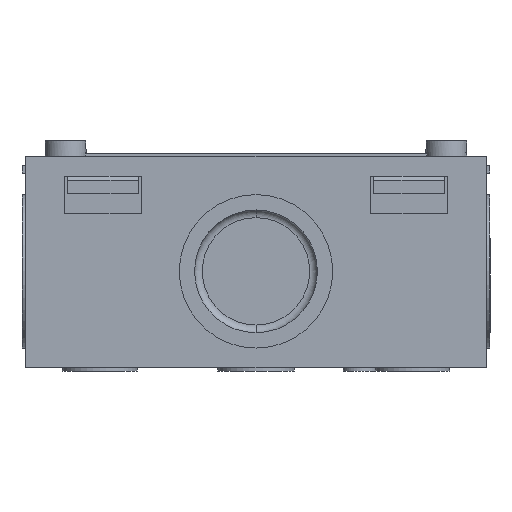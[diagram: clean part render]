
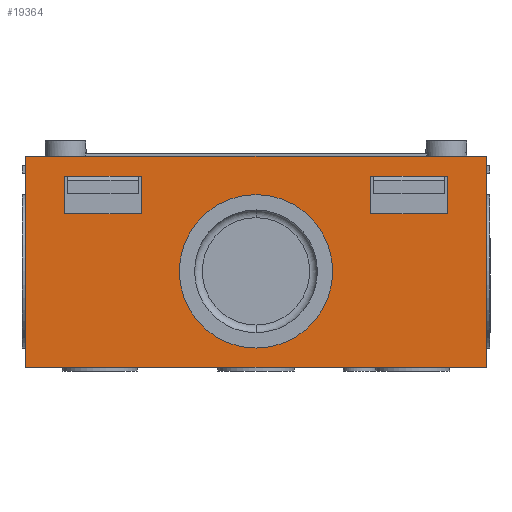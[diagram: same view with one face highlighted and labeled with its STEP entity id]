
A CAD part, front view. The second image highlights one B-rep face of the part: STEP entity #19364.
In plain terms, the highlighted planar face has unit normal (0, -1, 0).
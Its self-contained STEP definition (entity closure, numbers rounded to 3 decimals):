
#1417 = CARTESIAN_POINT ( 'NONE',  ( 0., -85.5, -1.25 ) ) ;
#1418 = DIRECTION ( 'NONE',  ( 0., -1., 0. ) ) ;
#1419 = DIRECTION ( 'NONE',  ( 0., 0., 1. ) ) ;
#3028 = AXIS2_PLACEMENT_3D ( 'NONE', #1417, #1418, #1419 ) ;
#3335 = VECTOR ( 'NONE', #13636, 1000. ) ;
#5993 = VERTEX_POINT ( 'NONE', #18619 ) ;
#5994 = VERTEX_POINT ( 'NONE', #18620 ) ;
#5995 = VERTEX_POINT ( 'NONE', #18621 ) ;
#5996 = VERTEX_POINT ( 'NONE', #18622 ) ;
#5997 = VERTEX_POINT ( 'NONE', #18623 ) ;
#5998 = VERTEX_POINT ( 'NONE', #18624 ) ;
#5999 = VERTEX_POINT ( 'NONE', #18625 ) ;
#6000 = VERTEX_POINT ( 'NONE', #18626 ) ;
#6001 = VERTEX_POINT ( 'NONE', #18627 ) ;
#6011 = VERTEX_POINT ( 'NONE', #18637 ) ;
#6040 = VERTEX_POINT ( 'NONE', #18666 ) ;
#6041 = VERTEX_POINT ( 'NONE', #18667 ) ;
#6089 = VERTEX_POINT ( 'NONE', #18715 ) ;
#6090 = VERTEX_POINT ( 'NONE', #18716 ) ;
#13634 = LINE ( 'NONE', #13635, #3335 ) ;
#13635 = CARTESIAN_POINT ( 'NONE',  ( -30., -85.5, -13.75 ) ) ;
#13636 = DIRECTION ( 'NONE',  ( 1., 0., 0. ) ) ;
#13736 = LINE ( 'NONE', #13737, #19881 ) ;
#13737 = CARTESIAN_POINT ( 'NONE',  ( -30., -85.5, -13.75 ) ) ;
#13738 = DIRECTION ( 'NONE',  ( 0., 0., -1. ) ) ;
#13745 = LINE ( 'NONE', #13746, #19884 ) ;
#13746 = CARTESIAN_POINT ( 'NONE',  ( 30., -85.5, -13.75 ) ) ;
#13747 = DIRECTION ( 'NONE',  ( 0., 0., 1. ) ) ;
#13748 = LINE ( 'NONE', #13749, #19885 ) ;
#13749 = CARTESIAN_POINT ( 'NONE',  ( -30., -85.5, 13.75 ) ) ;
#13750 = DIRECTION ( 'NONE',  ( -1., 0., 0. ) ) ;
#13769 = LINE ( 'NONE', #13770, #19892 ) ;
#13770 = CARTESIAN_POINT ( 'NONE',  ( -24.95, -85.5, 6.25 ) ) ;
#13771 = DIRECTION ( 'NONE',  ( 1., 0., 0. ) ) ;
#13772 = LINE ( 'NONE', #13773, #19893 ) ;
#13773 = CARTESIAN_POINT ( 'NONE',  ( 14.95, -85.5, 11.15 ) ) ;
#13774 = DIRECTION ( 'NONE',  ( 0., 0., -1. ) ) ;
#13775 = LINE ( 'NONE', #13776, #19894 ) ;
#13776 = CARTESIAN_POINT ( 'NONE',  ( -24.95, -85.5, 11.15 ) ) ;
#13777 = DIRECTION ( 'NONE',  ( 0., 0., -1. ) ) ;
#13778 = LINE ( 'NONE', #13779, #19895 ) ;
#13779 = CARTESIAN_POINT ( 'NONE',  ( 24.95, -85.5, 6.25 ) ) ;
#13780 = DIRECTION ( 'NONE',  ( -1., 0., 0. ) ) ;
#13781 = LINE ( 'NONE', #13782, #19896 ) ;
#13782 = CARTESIAN_POINT ( 'NONE',  ( 24.95, -85.5, 11.15 ) ) ;
#13783 = DIRECTION ( 'NONE',  ( -1., 0., 0. ) ) ;
#13784 = LINE ( 'NONE', #13785, #19897 ) ;
#13785 = CARTESIAN_POINT ( 'NONE',  ( 24.95, -85.5, 11.15 ) ) ;
#13786 = DIRECTION ( 'NONE',  ( 0., 0., -1. ) ) ;
#13801 = CARTESIAN_POINT ( 'NONE',  ( 0., -85.5, -1.25 ) ) ;
#13805 = DIRECTION ( 'NONE',  ( 0., -1., 0. ) ) ;
#13806 = DIRECTION ( 'NONE',  ( 0., 0., 1. ) ) ;
#13808 = LINE ( 'NONE', #13809, #19905 ) ;
#13809 = CARTESIAN_POINT ( 'NONE',  ( -14.95, -85.5, 11.15 ) ) ;
#13810 = DIRECTION ( 'NONE',  ( 0., 0., -1. ) ) ;
#13811 = LINE ( 'NONE', #13812, #19906 ) ;
#13812 = CARTESIAN_POINT ( 'NONE',  ( -24.95, -85.5, 11.15 ) ) ;
#13813 = DIRECTION ( 'NONE',  ( 1., 0., 0. ) ) ;
#14176 = PLANE ( 'NONE',  #19770 ) ;
#14177 = CARTESIAN_POINT ( 'NONE',  ( 0., -85.5, 0. ) ) ;
#14178 = DIRECTION ( 'NONE',  ( 0., 1., 0. ) ) ;
#14179 = DIRECTION ( 'NONE',  ( 0., 0., 1. ) ) ;
#15820 = EDGE_LOOP ( 'NONE', ( #21523, #21522 ) ) ;
#15821 = EDGE_LOOP ( 'NONE', ( #21511, #21509, #21510, #21508 ) ) ;
#15822 = EDGE_LOOP ( 'NONE', ( #21515, #21513, #21514, #21512 ) ) ;
#15827 = EDGE_LOOP ( 'NONE', ( #21502, #21517, #21500, #21516 ) ) ;
#16401 = CIRCLE ( 'NONE', #3028, 10. ) ;
#16488 = CIRCLE ( 'NONE', #19900, 10. ) ;
#18619 = CARTESIAN_POINT ( 'NONE',  ( -14.95, -85.5, 11.15 ) ) ;
#18620 = CARTESIAN_POINT ( 'NONE',  ( -24.95, -85.5, 11.15 ) ) ;
#18621 = CARTESIAN_POINT ( 'NONE',  ( -14.95, -85.5, 6.25 ) ) ;
#18622 = CARTESIAN_POINT ( 'NONE',  ( -24.95, -85.5, 6.25 ) ) ;
#18623 = CARTESIAN_POINT ( 'NONE',  ( 14.95, -85.5, 6.25 ) ) ;
#18624 = CARTESIAN_POINT ( 'NONE',  ( 24.95, -85.5, 6.25 ) ) ;
#18625 = CARTESIAN_POINT ( 'NONE',  ( 14.95, -85.5, 11.15 ) ) ;
#18626 = CARTESIAN_POINT ( 'NONE',  ( 24.95, -85.5, 11.15 ) ) ;
#18627 = CARTESIAN_POINT ( 'NONE',  ( 30., -85.5, 13.75 ) ) ;
#18637 = CARTESIAN_POINT ( 'NONE',  ( -30., -85.5, 13.75 ) ) ;
#18666 = CARTESIAN_POINT ( 'NONE',  ( -30., -85.5, -13.75 ) ) ;
#18667 = CARTESIAN_POINT ( 'NONE',  ( 30., -85.5, -13.75 ) ) ;
#18715 = CARTESIAN_POINT ( 'NONE',  ( 0., -85.5, 8.75 ) ) ;
#18716 = CARTESIAN_POINT ( 'NONE',  ( 0., -85.5, -11.25 ) ) ;
#19000 = EDGE_CURVE ( 'NONE', #6090, #6089, #16401, .T. ) ;
#19186 = EDGE_CURVE ( 'NONE', #6040, #6041, #13634, .T. ) ;
#19220 = EDGE_CURVE ( 'NONE', #6011, #6040, #13736, .T. ) ;
#19223 = EDGE_CURVE ( 'NONE', #6041, #6001, #13745, .T. ) ;
#19224 = EDGE_CURVE ( 'NONE', #6001, #6011, #13748, .T. ) ;
#19231 = EDGE_CURVE ( 'NONE', #5996, #5995, #13769, .T. ) ;
#19232 = EDGE_CURVE ( 'NONE', #5999, #5997, #13772, .T. ) ;
#19233 = EDGE_CURVE ( 'NONE', #5994, #5996, #13775, .T. ) ;
#19234 = EDGE_CURVE ( 'NONE', #5998, #5997, #13778, .T. ) ;
#19235 = EDGE_CURVE ( 'NONE', #6000, #5999, #13781, .T. ) ;
#19236 = EDGE_CURVE ( 'NONE', #6000, #5998, #13784, .T. ) ;
#19243 = EDGE_CURVE ( 'NONE', #6089, #6090, #16488, .T. ) ;
#19244 = EDGE_CURVE ( 'NONE', #5993, #5995, #13808, .T. ) ;
#19245 = EDGE_CURVE ( 'NONE', #5994, #5993, #13811, .T. ) ;
#19364 = ADVANCED_FACE ( 'NONE', ( #19787, #19704, #19759, #19786 ), #14176, .F. ) ;
#19704 = FACE_BOUND ( 'NONE', #15822, .T. ) ;
#19759 = FACE_BOUND ( 'NONE', #15821, .T. ) ;
#19770 = AXIS2_PLACEMENT_3D ( 'NONE', #14177, #14178, #14179 ) ;
#19786 = FACE_BOUND ( 'NONE', #15820, .T. ) ;
#19787 = FACE_OUTER_BOUND ( 'NONE', #15827, .T. ) ;
#19881 = VECTOR ( 'NONE', #13738, 1000. ) ;
#19884 = VECTOR ( 'NONE', #13747, 1000. ) ;
#19885 = VECTOR ( 'NONE', #13750, 1000. ) ;
#19892 = VECTOR ( 'NONE', #13771, 1000. ) ;
#19893 = VECTOR ( 'NONE', #13774, 1000. ) ;
#19894 = VECTOR ( 'NONE', #13777, 1000. ) ;
#19895 = VECTOR ( 'NONE', #13780, 1000. ) ;
#19896 = VECTOR ( 'NONE', #13783, 1000. ) ;
#19897 = VECTOR ( 'NONE', #13786, 1000. ) ;
#19900 = AXIS2_PLACEMENT_3D ( 'NONE', #13801, #13805, #13806 ) ;
#19905 = VECTOR ( 'NONE', #13810, 1000. ) ;
#19906 = VECTOR ( 'NONE', #13813, 1000. ) ;
#21500 = ORIENTED_EDGE ( 'NONE', *, *, #19220, .T. ) ;
#21502 = ORIENTED_EDGE ( 'NONE', *, *, #19223, .T. ) ;
#21508 = ORIENTED_EDGE ( 'NONE', *, *, #19244, .T. ) ;
#21509 = ORIENTED_EDGE ( 'NONE', *, *, #19233, .F. ) ;
#21510 = ORIENTED_EDGE ( 'NONE', *, *, #19245, .T. ) ;
#21511 = ORIENTED_EDGE ( 'NONE', *, *, #19231, .F. ) ;
#21512 = ORIENTED_EDGE ( 'NONE', *, *, #19232, .F. ) ;
#21513 = ORIENTED_EDGE ( 'NONE', *, *, #19236, .T. ) ;
#21514 = ORIENTED_EDGE ( 'NONE', *, *, #19234, .T. ) ;
#21515 = ORIENTED_EDGE ( 'NONE', *, *, #19235, .F. ) ;
#21516 = ORIENTED_EDGE ( 'NONE', *, *, #19186, .T. ) ;
#21517 = ORIENTED_EDGE ( 'NONE', *, *, #19224, .T. ) ;
#21522 = ORIENTED_EDGE ( 'NONE', *, *, #19000, .F. ) ;
#21523 = ORIENTED_EDGE ( 'NONE', *, *, #19243, .F. ) ;
